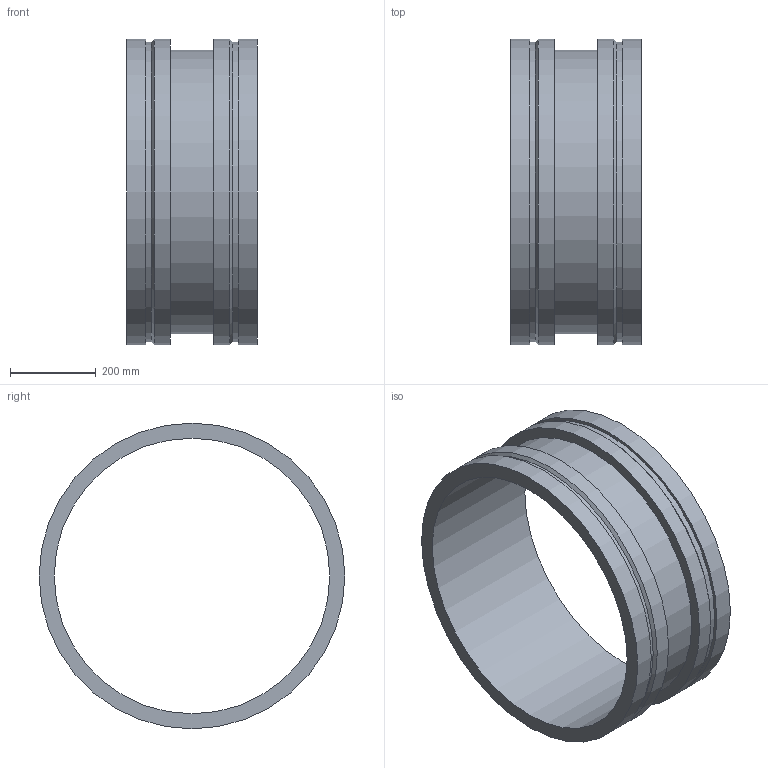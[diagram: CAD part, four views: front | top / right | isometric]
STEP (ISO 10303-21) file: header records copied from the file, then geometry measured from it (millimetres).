
FILE_DESCRIPTION(/* description */ ('VIC ADAPTER NIPPLE No W43 VR','CAx-IF Rec.Pracs.---Representation and Presentation of Product Manufacturing Information (PMI)---4.0---2014-10-13'),/* implementation_level */ '2;1');
FILE_NAME(/* name */ 'C:\Users\kkamble\AppData\Roaming\Autodesk\ApplicationPlugins\Back Up\Victaulic_Vic-Ring_Adapter Nipple_No W43 VR (AGR)\Victaulic_Vic-Ring_Adapter Nipple_No W43 VR (AGR)_26 (650).stp',/* time_stamp */ '2020-09-10T11:31:22+05:00',/* author */ ('cps_temp'),/* organization */ ('Victaulic'),/* preprocessor_version */ 'ST-DEVELOPER v17.2',/* originating_system */ 'Autodesk Inventor 2019',/* authorisation */ '');
FILE_SCHEMA (('AP242_MANAGED_MODEL_BASED_3D_ENGINEERING_MIM_LF { 1 0 10303 442 1 1 4 }'));
Length unit declared in the file: inch
Products named in the file (1): W43 VR-26.0
Bounding box: 304.8 x 711.2 x 711.2 mm (x, y, z)
Volume: 16523773.6 mm3; surface area: 1582217.6 mm2
Topology: 1 solids, 1 shells, 16 faces, 42 edges, 32 vertices
Faces by surface type: cylinder 8, plane 6, cone 2
Full cylindrical faces by diameter (mm): 641.35 x1, 660.4 x1, 696.722 x2, 711.2 x4
Entity records: 686 total; most frequent: DIRECTION 134, CARTESIAN_POINT 108, ORIENTED_EDGE 84, AXIS2_PLACEMENT_3D 62, EDGE_CURVE 42, CIRCLE 32, VERTEX_POINT 32, EDGE_LOOP 22
